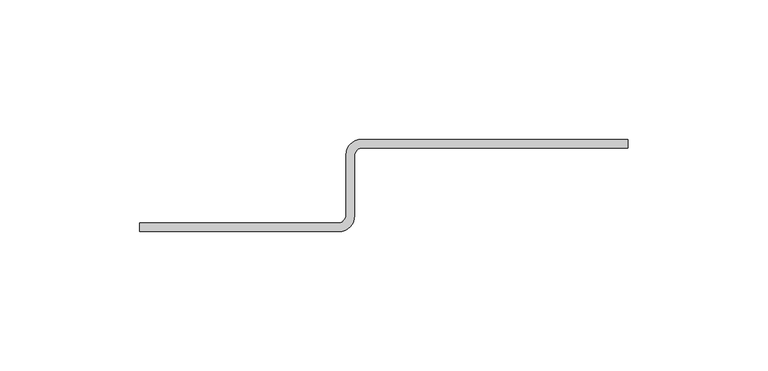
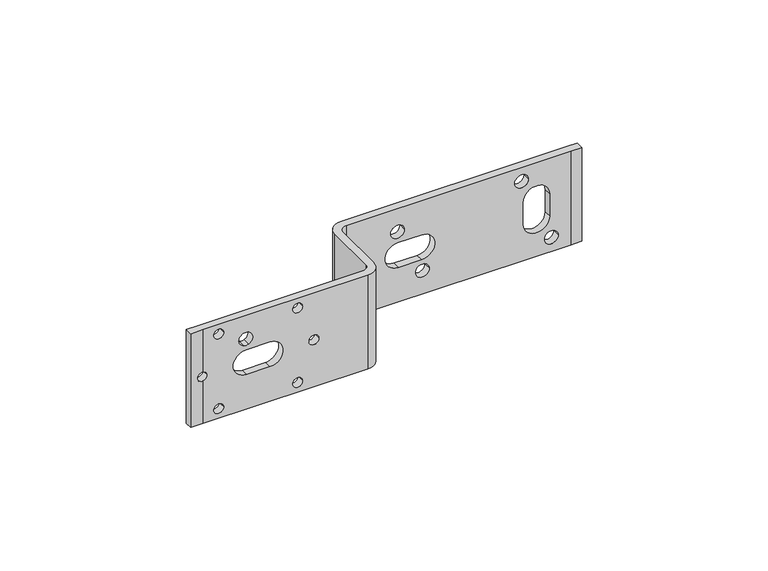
"""IFC4 building model written with IfcOpenShell, lengths in millimetres: proxy geometry, REHAU_RAUTITAN_Bracket Z : REHAU Bracket Z 30, for single connection."""

from ifc_helpers import new_model, si_unit, frame, origin, place, context, project, spatial, polyline, circle_curve, source, transform, mapped, element, save
from ifc_brep_helpers import plane_surface, cylinder_surface, revolved_surface, advanced_brep


def mechanical_equipment_fc905d6f(model_context):
    return source(origin(), model_context, "Body", "AdvancedBrep", [
        advanced_brep(
        [(0.0, 12.5, 20.0), (0.0, -9.0, 20.0), (-3.0, -12.0, 20.0), (-69.0, -12.0, 20.0), (-74.0, -12.0, 20.0), (-74.0, -15.0, 20.0), (-69.0, -15.0, 20.0), (-2.5, -15.0, 20.0), (3.0, -9.5, 20.0), (3.0, 12.0, 20.0), (6.0, 15.0, 20.0), (96.5, 15.0, 20.0), (101.0, 15.0, 20.0), (101.0, 18.0, 20.0), (96.5, 18.0, 20.0), (5.5, 18.0, 20.0), (0.0, 12.5, -20.0), (5.5, 18.0, -20.0), (96.5, 18.0, -20.0), (101.0, 18.0, -20.0), (101.0, 15.0, -20.0), (96.5, 15.0, -20.0), (6.0, 15.0, -20.0), (3.0, 12.0, -20.0), (3.0, -9.5, -20.0), (-2.5, -15.0, -20.0), (-69.0, -15.0, -20.0), (-74.0, -15.0, -20.0), (-74.0, -12.0, -20.0), (-69.0, -12.0, -20.0), (-3.0, -12.0, -20.0), (0.0, -9.0, -20.0), (-69.0, -12.0, -1.9843135), (-67.25, -12.0, 0.0), (-69.0, -12.0, 1.9843135), (-32.8400974, -12.0, 15.9099026), (-28.8400974, -12.0, 15.9099026), (-50.6092942, -12.0, 7.497743), (-54.5, -12.0, 10.0), (-52.6228998, -12.0, 7.3922144), (-64.6599026, -12.0, 15.9099026), (-60.6599026, -12.0, 15.9099026), (-32.8400974, -12.0, -15.9099026), (-28.8400974, -12.0, -15.9099026), (-64.6599026, -12.0, -15.9099026), (-60.6599026, -12.0, -15.9099026), (-26.25, -12.0, 0.0), (-22.25, -12.0, 0.0), (-42.0, -12.0, -5.25), (-42.0, -12.0, 5.25), (-51.5, -12.0, 5.25), (-51.5, -12.0, -5.25), (-71.25, -12.0, 0.0), (-69.0, -15.0, -1.9843135), (-71.25, -15.0, 0.0), (-69.0, -15.0, 1.9843135), (-67.25, -15.0, 0.0), (-28.8400974, -15.0, 15.9099026), (-32.8400974, -15.0, 15.9099026), (-54.5, -15.0, 10.0), (-50.6092942, -15.0, 7.497743), (-52.6228998, -15.0, 7.3922144), (-60.6599026, -15.0, 15.9099026), (-64.6599026, -15.0, 15.9099026), (-28.8400974, -15.0, -15.9099026), (-32.8400974, -15.0, -15.9099026), (-60.6599026, -15.0, -15.9099026), (-64.6599026, -15.0, -15.9099026), (-22.25, -15.0, 0.0), (-26.25, -15.0, 0.0), (-42.0, -15.0, 5.25), (-42.0, -15.0, -5.25), (-51.5, -15.0, -5.25), (-51.5, -15.0, 5.25), (29.5, 15.0, 10.0), (24.0, 15.0, 10.0), (79.5, 15.0, 14.0), (74.0, 15.0, 14.0), (77.5, 15.0, 4.75), (88.0, 15.0, 4.75), (88.0, 15.0, -4.75), (77.5, 15.0, -4.75), (36.5, 15.0, 5.25), (36.5, 15.0, -5.25), (27.0, 15.0, -5.25), (27.0, 15.0, 5.25), (39.5, 15.0, -10.0), (34.0, 15.0, -10.0), (91.5, 15.0, -14.0), (86.0, 15.0, -14.0), (24.0, 18.0, 10.0), (29.5, 18.0, 10.0), (74.0, 18.0, 14.0), (79.5, 18.0, 14.0), (88.0, 18.0, 4.75), (77.5, 18.0, 4.75), (77.5, 18.0, -4.75), (88.0, 18.0, -4.75), (36.5, 18.0, -5.25), (36.5, 18.0, 5.25), (27.0, 18.0, 5.25), (27.0, 18.0, -5.25), (34.0, 18.0, -10.0), (39.5, 18.0, -10.0), (86.0, 18.0, -14.0), (91.5, 18.0, -14.0)],
        [
            (0, 1),
            (1, 2, circle_curve(frame((-3.0, -9.0, 20.0), z_axis=(0.0, 0.0, -1.0), x_axis=(1.0, 0.0, 0.0)), 3.0)),
            (2, 3),
            (3, 4),
            (4, 5),
            (5, 6),
            (6, 7),
            (7, 8, circle_curve(frame((-2.5, -9.5, 20.0), z_axis=(0.0, 0.0, 1.0), x_axis=(1.0, 0.0, 0.0)), 5.5)),
            (8, 9),
            (9, 10, circle_curve(frame((6.0, 12.0, 20.0), z_axis=(0.0, 0.0, -1.0), x_axis=(1.0, 0.0, 0.0)), 3.0)),
            (10, 11),
            (11, 12),
            (12, 13),
            (13, 14),
            (14, 15),
            (15, 0, circle_curve(frame((5.5, 12.5, 20.0), z_axis=(0.0, 0.0, 1.0), x_axis=(1.0, 0.0, 0.0)), 5.5)),
            (16, 17, circle_curve(frame((5.5, 12.5, -20.0), z_axis=(0.0, 0.0, -1.0), x_axis=(1.0, 0.0, 0.0)), 5.5)),
            (17, 18),
            (18, 19),
            (19, 20),
            (20, 21),
            (21, 22),
            (22, 23, circle_curve(frame((6.0, 12.0, -20.0), z_axis=(0.0, 0.0, 1.0), x_axis=(1.0, 0.0, 0.0)), 3.0)),
            (23, 24),
            (24, 25, circle_curve(frame((-2.5, -9.5, -20.0), z_axis=(0.0, 0.0, -1.0), x_axis=(1.0, 0.0, 0.0)), 5.5)),
            (25, 26),
            (26, 27),
            (27, 28),
            (28, 29),
            (29, 30),
            (30, 31, circle_curve(frame((-3.0, -9.0, -20.0), z_axis=(0.0, 0.0, 1.0), x_axis=(1.0, 0.0, 0.0)), 3.0)),
            (31, 16),
            (0, 16),
            (31, 1),
            (30, 2),
            (29, 32),
            (32, 33, circle_curve(frame((-69.25, -12.0, 0.0), z_axis=(0.0, -1.0, 0.0), x_axis=(1.0, 0.0, 0.0)), 2.0)),
            (33, 34, circle_curve(frame((-69.25, -12.0, 0.0), z_axis=(0.0, -1.0, 0.0), x_axis=(1.0, 0.0, 0.0)), 2.0)),
            (34, 3),
            (35, 36, circle_curve(frame((-30.8400974, -12.0, 15.9099026), z_axis=(0.0, -1.0, 0.0), x_axis=(1.0, 0.0, 0.0)), 2.0)),
            (36, 35, circle_curve(frame((-30.8400974, -12.0, 15.9099026), z_axis=(0.0, -1.0, 0.0), x_axis=(1.0, 0.0, 0.0)), 2.0)),
            (37, 38, circle_curve(frame((-51.75, -12.0, 10.0), z_axis=(0.0, -1.0, 0.0), x_axis=(1.0, 0.0, 0.0)), 2.75)),
            (38, 39, circle_curve(frame((-51.75, -12.0, 10.0), z_axis=(0.0, -1.0, 0.0), x_axis=(1.0, 0.0, 0.0)), 2.75)),
            (39, 37, circle_curve(frame((-51.75, -12.0, 10.0), z_axis=(0.0, -1.0, 0.0), x_axis=(1.0, 0.0, 0.0)), 2.75)),
            (40, 41, circle_curve(frame((-62.6599026, -12.0, 15.9099026), z_axis=(0.0, -1.0, 0.0), x_axis=(1.0, 0.0, 0.0)), 2.0)),
            (41, 40, circle_curve(frame((-62.6599026, -12.0, 15.9099026), z_axis=(0.0, -1.0, 0.0), x_axis=(1.0, 0.0, 0.0)), 2.0)),
            (42, 43, circle_curve(frame((-30.8400974, -12.0, -15.9099026), z_axis=(0.0, -1.0, 0.0), x_axis=(1.0, 0.0, 0.0)), 2.0)),
            (43, 42, circle_curve(frame((-30.8400974, -12.0, -15.9099026), z_axis=(0.0, -1.0, 0.0), x_axis=(1.0, 0.0, 0.0)), 2.0)),
            (44, 45, circle_curve(frame((-62.6599026, -12.0, -15.9099026), z_axis=(0.0, -1.0, 0.0), x_axis=(1.0, 0.0, 0.0)), 2.0)),
            (45, 44, circle_curve(frame((-62.6599026, -12.0, -15.9099026), z_axis=(0.0, -1.0, 0.0), x_axis=(1.0, 0.0, 0.0)), 2.0)),
            (46, 47, circle_curve(frame((-24.25, -12.0, 0.0), z_axis=(0.0, -1.0, 0.0), x_axis=(1.0, 0.0, 0.0)), 2.0)),
            (47, 46, circle_curve(frame((-24.25, -12.0, 0.0), z_axis=(0.0, -1.0, 0.0), x_axis=(1.0, 0.0, 0.0)), 2.0)),
            (48, 49, circle_curve(frame((-42.0, -12.0, 0.0), z_axis=(0.0, -1.0, 0.0), x_axis=(1.0, 0.0, 0.0)), 5.25)),
            (49, 50),
            (50, 51, circle_curve(frame((-51.5, -12.0, 0.0), z_axis=(0.0, -1.0, 0.0), x_axis=(1.0, 0.0, 0.0)), 5.25)),
            (51, 48),
            (34, 52, circle_curve(frame((-69.25, -12.0, 0.0), z_axis=(0.0, -1.0, 0.0), x_axis=(1.0, 0.0, 0.0)), 2.0)),
            (52, 32, circle_curve(frame((-69.25, -12.0, 0.0), z_axis=(0.0, -1.0, 0.0), x_axis=(1.0, 0.0, 0.0)), 2.0)),
            (28, 4),
            (27, 5),
            (26, 53),
            (53, 54, circle_curve(frame((-69.25, -15.0, 0.0), z_axis=(0.0, 1.0, 0.0), x_axis=(1.0, 0.0, 0.0)), 2.0)),
            (54, 55, circle_curve(frame((-69.25, -15.0, 0.0), z_axis=(0.0, 1.0, 0.0), x_axis=(1.0, 0.0, 0.0)), 2.0)),
            (55, 6),
            (55, 56, circle_curve(frame((-69.25, -15.0, 0.0), z_axis=(0.0, 1.0, 0.0), x_axis=(1.0, 0.0, 0.0)), 2.0)),
            (56, 53, circle_curve(frame((-69.25, -15.0, 0.0), z_axis=(0.0, 1.0, 0.0), x_axis=(1.0, 0.0, 0.0)), 2.0)),
            (25, 7),
            (57, 58, circle_curve(frame((-30.8400974, -15.0, 15.9099026), z_axis=(0.0, 1.0, 0.0), x_axis=(1.0, 0.0, 0.0)), 2.0)),
            (58, 57, circle_curve(frame((-30.8400974, -15.0, 15.9099026), z_axis=(0.0, 1.0, 0.0), x_axis=(1.0, 0.0, 0.0)), 2.0)),
            (59, 60, circle_curve(frame((-51.75, -15.0, 10.0), z_axis=(0.0, 1.0, 0.0), x_axis=(1.0, 0.0, 0.0)), 2.75)),
            (60, 61, circle_curve(frame((-51.75, -15.0, 10.0), z_axis=(0.0, 1.0, 0.0), x_axis=(1.0, 0.0, 0.0)), 2.75)),
            (61, 59, circle_curve(frame((-51.75, -15.0, 10.0), z_axis=(0.0, 1.0, 0.0), x_axis=(1.0, 0.0, 0.0)), 2.75)),
            (62, 63, circle_curve(frame((-62.6599026, -15.0, 15.9099026), z_axis=(0.0, 1.0, 0.0), x_axis=(1.0, 0.0, 0.0)), 2.0)),
            (63, 62, circle_curve(frame((-62.6599026, -15.0, 15.9099026), z_axis=(0.0, 1.0, 0.0), x_axis=(1.0, 0.0, 0.0)), 2.0)),
            (64, 65, circle_curve(frame((-30.8400974, -15.0, -15.9099026), z_axis=(0.0, 1.0, 0.0), x_axis=(1.0, 0.0, 0.0)), 2.0)),
            (65, 64, circle_curve(frame((-30.8400974, -15.0, -15.9099026), z_axis=(0.0, 1.0, 0.0), x_axis=(1.0, 0.0, 0.0)), 2.0)),
            (66, 67, circle_curve(frame((-62.6599026, -15.0, -15.9099026), z_axis=(0.0, 1.0, 0.0), x_axis=(1.0, 0.0, 0.0)), 2.0)),
            (67, 66, circle_curve(frame((-62.6599026, -15.0, -15.9099026), z_axis=(0.0, 1.0, 0.0), x_axis=(1.0, 0.0, 0.0)), 2.0)),
            (68, 69, circle_curve(frame((-24.25, -15.0, 0.0), z_axis=(0.0, 1.0, 0.0), x_axis=(1.0, 0.0, 0.0)), 2.0)),
            (69, 68, circle_curve(frame((-24.25, -15.0, 0.0), z_axis=(0.0, 1.0, 0.0), x_axis=(1.0, 0.0, 0.0)), 2.0)),
            (70, 71, circle_curve(frame((-42.0, -15.0, 0.0), z_axis=(0.0, 1.0, 0.0), x_axis=(1.0, 0.0, 0.0)), 5.25)),
            (71, 72),
            (72, 73, circle_curve(frame((-51.5, -15.0, 0.0), z_axis=(0.0, 1.0, 0.0), x_axis=(1.0, 0.0, 0.0)), 5.25)),
            (73, 70),
            (24, 8),
            (23, 9),
            (22, 10),
            (21, 11),
            (74, 75, circle_curve(frame((26.75, 15.0, 10.0), z_axis=(0.0, 1.0, 0.0), x_axis=(1.0, 0.0, 0.0)), 2.75)),
            (75, 74, circle_curve(frame((26.75, 15.0, 10.0), z_axis=(0.0, 1.0, 0.0), x_axis=(1.0, 0.0, 0.0)), 2.75)),
            (76, 77, circle_curve(frame((76.75, 15.0, 14.0), z_axis=(0.0, 1.0, 0.0), x_axis=(1.0, 0.0, 0.0)), 2.75)),
            (77, 76, circle_curve(frame((76.75, 15.0, 14.0), z_axis=(0.0, 1.0, 0.0), x_axis=(1.0, 0.0, 0.0)), 2.75)),
            (78, 79, circle_curve(frame((82.75, 15.0, 4.75), z_axis=(0.0, 1.0, 0.0), x_axis=(1.0, 0.0, 0.0)), 5.25)),
            (79, 80),
            (80, 81, circle_curve(frame((82.75, 15.0, -4.75), z_axis=(0.0, 1.0, 0.0), x_axis=(1.0, 0.0, 0.0)), 5.25)),
            (81, 78),
            (82, 83, circle_curve(frame((36.5, 15.0, 0.0), z_axis=(0.0, 1.0, 0.0), x_axis=(1.0, 0.0, 0.0)), 5.25)),
            (83, 84),
            (84, 85, circle_curve(frame((27.0, 15.0, 0.0), z_axis=(0.0, 1.0, 0.0), x_axis=(1.0, 0.0, 0.0)), 5.25)),
            (85, 82),
            (86, 87, circle_curve(frame((36.75, 15.0, -10.0), z_axis=(0.0, 1.0, 0.0), x_axis=(1.0, 0.0, 0.0)), 2.75)),
            (87, 86, circle_curve(frame((36.75, 15.0, -10.0), z_axis=(0.0, 1.0, 0.0), x_axis=(1.0, 0.0, 0.0)), 2.75)),
            (88, 89, circle_curve(frame((88.75, 15.0, -14.0), z_axis=(0.0, 1.0, 0.0), x_axis=(1.0, 0.0, 0.0)), 2.75)),
            (89, 88, circle_curve(frame((88.75, 15.0, -14.0), z_axis=(0.0, 1.0, 0.0), x_axis=(1.0, 0.0, 0.0)), 2.75)),
            (20, 12),
            (19, 13),
            (18, 14),
            (17, 15),
            (90, 91, circle_curve(frame((26.75, 18.0, 10.0), z_axis=(0.0, -1.0, 0.0), x_axis=(1.0, 0.0, 0.0)), 2.75)),
            (91, 90, circle_curve(frame((26.75, 18.0, 10.0), z_axis=(0.0, -1.0, 0.0), x_axis=(1.0, 0.0, 0.0)), 2.75)),
            (92, 93, circle_curve(frame((76.75, 18.0, 14.0), z_axis=(0.0, -1.0, 0.0), x_axis=(1.0, 0.0, 0.0)), 2.75)),
            (93, 92, circle_curve(frame((76.75, 18.0, 14.0), z_axis=(0.0, -1.0, 0.0), x_axis=(1.0, 0.0, 0.0)), 2.75)),
            (94, 95, circle_curve(frame((82.75, 18.0, 4.75), z_axis=(0.0, -1.0, 0.0), x_axis=(1.0, 0.0, 0.0)), 5.25)),
            (95, 96),
            (96, 97, circle_curve(frame((82.75, 18.0, -4.75), z_axis=(0.0, -1.0, 0.0), x_axis=(1.0, 0.0, 0.0)), 5.25)),
            (97, 94),
            (98, 99, circle_curve(frame((36.5, 18.0, 0.0), z_axis=(0.0, -1.0, 0.0), x_axis=(1.0, 0.0, 0.0)), 5.25)),
            (99, 100),
            (100, 101, circle_curve(frame((27.0, 18.0, 0.0), z_axis=(0.0, -1.0, 0.0), x_axis=(1.0, 0.0, 0.0)), 5.25)),
            (101, 98),
            (102, 103, circle_curve(frame((36.75, 18.0, -10.0), z_axis=(0.0, -1.0, 0.0), x_axis=(1.0, 0.0, 0.0)), 2.75)),
            (103, 102, circle_curve(frame((36.75, 18.0, -10.0), z_axis=(0.0, -1.0, 0.0), x_axis=(1.0, 0.0, 0.0)), 2.75)),
            (104, 105, circle_curve(frame((88.75, 18.0, -14.0), z_axis=(0.0, -1.0, 0.0), x_axis=(1.0, 0.0, 0.0)), 2.75)),
            (105, 104, circle_curve(frame((88.75, 18.0, -14.0), z_axis=(0.0, -1.0, 0.0), x_axis=(1.0, 0.0, 0.0)), 2.75)),
            (35, 58),
            (57, 36),
            (37, 60),
            (59, 38),
            (61, 39),
            (40, 63),
            (62, 41),
            (90, 75),
            (74, 91),
            (92, 77),
            (76, 93),
            (94, 79),
            (78, 95),
            (81, 96),
            (80, 97),
            (98, 83),
            (82, 99),
            (85, 100),
            (84, 101),
            (102, 87),
            (86, 103),
            (104, 89),
            (88, 105),
            (42, 65),
            (64, 43),
            (44, 67),
            (66, 45),
            (46, 69),
            (68, 47),
            (52, 54),
            (56, 33),
            (48, 71),
            (70, 49),
            (73, 50),
            (72, 51),
        ],
        [
            plane_surface(frame((0.0, 12.5, 20.0), z_axis=(0.0, 0.0, 1.0), x_axis=(0.0, -1.0, 0.0))),
            plane_surface(frame((0.0, 12.5, -20.0), z_axis=(0.0, 0.0, -1.0), x_axis=(0.0, 1.0, 0.0))),
            plane_surface(frame((0.0, 12.5, 20.0), z_axis=(-1.0, 0.0, 0.0), x_axis=(0.0, 0.0, -1.0))),
            revolved_surface(polyline([(0.0, -9.0, -20.0), (0.0, -9.0, 20.0)]), (-3.0, -9.0, -20.0), (0.0, 0.0, -1.0)),
            plane_surface(frame((-3.0, -12.0, 20.0), z_axis=(0.0, 1.0, 0.0), x_axis=(0.0, 0.0, -1.0))),
            plane_surface(frame((-69.0, -12.0, 20.0), z_axis=(0.0, 1.0, 0.0), x_axis=(0.0, 0.0, -1.0))),
            plane_surface(frame((-74.0, -12.0, 20.0), z_axis=(-1.0, 0.0, 0.0), x_axis=(0.0, 0.0, -1.0))),
            plane_surface(frame((-74.0, -15.0, 20.0), z_axis=(0.0, -1.0, 0.0), x_axis=(0.0, 0.0, -1.0))),
            plane_surface(frame((-69.0, -15.0, 20.0), z_axis=(0.0, -1.0, 0.0), x_axis=(0.0, 0.0, -1.0))),
            cylinder_surface(frame((-2.5, -9.5, -20.0), z_axis=(0.0, 0.0, 1.0), x_axis=(1.0, 0.0, 0.0)), 5.5),
            plane_surface(frame((3.0, -9.5, 20.0), z_axis=(1.0, 0.0, 0.0), x_axis=(0.0, 0.0, -1.0))),
            revolved_surface(polyline([(9.0, 12.0, -20.0), (9.0, 12.0, 20.0)]), (6.0, 12.0, -20.0), (0.0, 0.0, -1.0)),
            plane_surface(frame((6.0, 15.0, 20.0), z_axis=(0.0, -1.0, 0.0), x_axis=(0.0, 0.0, -1.0))),
            plane_surface(frame((96.5, 15.0, 20.0), z_axis=(0.0, -1.0, 0.0), x_axis=(0.0, 0.0, -1.0))),
            plane_surface(frame((101.0, 15.0, 20.0), z_axis=(1.0, 0.0, 0.0), x_axis=(0.0, 0.0, -1.0))),
            plane_surface(frame((101.0, 18.0, 20.0), z_axis=(0.0, 1.0, 0.0), x_axis=(0.0, 0.0, -1.0))),
            plane_surface(frame((96.5, 18.0, 20.0), z_axis=(0.0, 1.0, 0.0), x_axis=(0.0, 0.0, -1.0))),
            cylinder_surface(frame((5.5, 12.5, -20.0), z_axis=(0.0, 0.0, 1.0), x_axis=(1.0, 0.0, 0.0)), 5.5),
            revolved_surface(polyline([(-28.8400974, -15.0, 15.9099026), (-28.8400974, -12.0, 15.9099026)]), (-30.8400974, 30.0, 15.9099026), (0.0, -1.0, 0.0)),
            revolved_surface(polyline([(-49.0, -15.0, 10.0), (-49.0, -12.0, 10.0)]), (-51.75, 0.0, 10.0), (0.0, -1.0, 0.0)),
            revolved_surface(polyline([(-60.6599026, -15.0, 15.9099026), (-60.6599026, -12.0, 15.9099026)]), (-62.6599026, 0.0, 15.9099026), (0.0, -1.0, 0.0)),
            revolved_surface(polyline([(29.5, 15.0, 10.0), (29.5, 18.0, 10.0)]), (26.75, 0.0, 10.0), (0.0, -1.0, 0.0)),
            revolved_surface(polyline([(79.5, 15.0, 14.0), (79.5, 18.0, 14.0)]), (76.75, 0.0, 14.0), (0.0, -1.0, 0.0)),
            revolved_surface(polyline([(88.0, 15.0, 4.75), (88.0, 18.0, 4.75)]), (82.75, 0.0, 4.75), (0.0, -1.0, 0.0)),
            plane_surface(frame((77.5, -30.0, 4.75), z_axis=(1.0, 0.0, 0.0), x_axis=(0.0, 1.0, 0.0))),
            revolved_surface(polyline([(88.0, 15.0, -4.75), (88.0, 18.0, -4.75)]), (82.75, 0.0, -4.75), (0.0, -1.0, 0.0)),
            plane_surface(frame((88.0, -30.0, -4.75), z_axis=(-1.0, 0.0, 0.0), x_axis=(0.0, 1.0, 0.0))),
            revolved_surface(polyline([(41.75, 15.0, 0.0), (41.75, 18.0, 0.0)]), (36.5, 0.0, 0.0), (0.0, -1.0, 0.0)),
            plane_surface(frame((36.5, -30.0, 5.25), z_axis=(0.0, 0.0, -1.0), x_axis=(0.0, 1.0, 0.0))),
            revolved_surface(polyline([(32.25, 15.0, 0.0), (32.25, 18.0, 0.0)]), (27.0, 0.0, 0.0), (0.0, -1.0, 0.0)),
            plane_surface(frame((27.0, -30.0, -5.25), z_axis=(0.0, 0.0, 1.0), x_axis=(0.0, 1.0, 0.0))),
            revolved_surface(polyline([(39.5, 15.0, -10.0), (39.5, 18.0, -10.0)]), (36.75, 0.0, -10.0), (0.0, -1.0, 0.0)),
            revolved_surface(polyline([(91.5, 15.0, -14.0), (91.5, 18.0, -14.0)]), (88.75, 0.0, -14.0), (0.0, -1.0, 0.0)),
            revolved_surface(polyline([(-28.8400974, -15.0, -15.9099026), (-28.8400974, -12.0, -15.9099026)]), (-30.8400974, 0.0, -15.9099026), (0.0, -1.0, 0.0)),
            revolved_surface(polyline([(-60.6599026, -15.0, -15.9099026), (-60.6599026, -12.0, -15.9099026)]), (-62.6599026, 0.0, -15.9099026), (0.0, -1.0, 0.0)),
            revolved_surface(polyline([(-22.25, -15.0, 0.0), (-22.25, -12.0, 0.0)]), (-24.25, 0.0, 0.0), (0.0, -1.0, 0.0)),
            revolved_surface(polyline([(-67.25, -15.0, 0.0), (-67.25, -12.0, 0.0)]), (-69.25, 0.0, 0.0), (0.0, -1.0, 0.0)),
            revolved_surface(polyline([(-36.75, -15.0, 0.0), (-36.75, -12.0, 0.0)]), (-42.0, 0.0, 0.0), (0.0, -1.0, 0.0)),
            plane_surface(frame((-42.0, -30.0, 5.25), z_axis=(0.0, 0.0, -1.0), x_axis=(0.0, 1.0, 0.0))),
            revolved_surface(polyline([(-46.25, -15.0, 0.0), (-46.25, -12.0, 0.0)]), (-51.5, 0.0, 0.0), (0.0, -1.0, 0.0)),
            plane_surface(frame((-51.5, -30.0, -5.25), z_axis=(0.0, 0.0, 1.0), x_axis=(0.0, 1.0, 0.0))),
        ],
        [
            (0, [[1, 2, 3, 4, 5, 6, 7, 8, 9, 10, 11, 12, 13, 14, 15, 16]]),
            (1, [[17, 18, 19, 20, 21, 22, 23, 24, 25, 26, 27, 28, 29, 30, 31, 32]]),
            (2, [[-1, 33, -32, 34]]),
            (3, [[-2, -34, -31, 35]]),
            (4, [[-3, -35, -30, 36, 37, 38, 39], [40, 41], [42, 43, 44], [45, 46], [47, 48], [49, 50], [51, 52], [53, 54, 55, 56]]),
            (5, [[-4, -39, 57, 58, -36, -29, 59]]),
            (6, [[-5, -59, -28, 60]]),
            (7, [[-6, -60, -27, 61, 62, 63, 64]]),
            (8, [[-7, -64, 65, 66, -61, -26, 67], [68, 69], [70, 71, 72], [73, 74], [75, 76], [77, 78], [79, 80], [81, 82, 83, 84]]),
            (9, [[-8, -67, -25, 85]]),
            (10, [[-9, -85, -24, 86]]),
            (11, [[-10, -86, -23, 87]]),
            (12, [[-11, -87, -22, 88], [89, 90], [91, 92], [93, 94, 95, 96], [97, 98, 99, 100], [101, 102], [103, 104]]),
            (13, [[-12, -88, -21, 105]]),
            (14, [[-13, -105, -20, 106]]),
            (15, [[-14, -106, -19, 107]]),
            (16, [[-15, -107, -18, 108], [109, 110], [111, 112], [113, 114, 115, 116], [117, 118, 119, 120], [121, 122], [123, 124]]),
            (17, [[-16, -108, -17, -33]]),
            (18, [[125, -68, 126, -40]]),
            (18, [[-125, -41, -126, -69]]),
            (19, [[127, -70, 128, -42]]),
            (19, [[-128, -72, 129, -43]]),
            (19, [[-127, -44, -129, -71]]),
            (20, [[130, -73, 131, -45]]),
            (20, [[-130, -46, -131, -74]]),
            (21, [[132, -89, 133, -109]]),
            (21, [[-132, -110, -133, -90]]),
            (22, [[134, -91, 135, -111]]),
            (22, [[-134, -112, -135, -92]]),
            (23, [[136, -93, 137, -113]]),
            (24, [[-137, -96, 138, -114]]),
            (25, [[-138, -95, 139, -115]]),
            (26, [[-136, -116, -139, -94]]),
            (27, [[140, -97, 141, -117]]),
            (28, [[-141, -100, 142, -118]]),
            (29, [[-142, -99, 143, -119]]),
            (30, [[-140, -120, -143, -98]]),
            (31, [[144, -101, 145, -121]]),
            (31, [[-144, -122, -145, -102]]),
            (32, [[146, -103, 147, -123]]),
            (32, [[-146, -124, -147, -104]]),
            (33, [[148, -75, 149, -47]]),
            (33, [[-148, -48, -149, -76]]),
            (34, [[150, -77, 151, -49]]),
            (34, [[-150, -50, -151, -78]]),
            (35, [[152, -79, 153, -51]]),
            (35, [[-152, -52, -153, -80]]),
            (36, [[154, -62, -66, 155, -37, -58]]),
            (36, [[-154, -57, -38, -155, -65, -63]]),
            (37, [[156, -81, 157, -53]]),
            (38, [[-157, -84, 158, -54]]),
            (39, [[-158, -83, 159, -55]]),
            (40, [[-156, -56, -159, -82]]),
        ],
    ),
    ])


if __name__ == "__main__":
    model = new_model("IFC4")
    model_context = context("Model", 3, world=origin())
    ifc_project = project(units=[si_unit("LENGTHUNIT", "METRE", prefix="MILLI")], contexts=[model_context])
    site = spatial("IfcSite", under=ifc_project)
    building = spatial("IfcBuilding", under=site)
    placement = place(None, origin())
    mechanical_equipment_shape = mechanical_equipment_fc905d6f(model_context)
    element("IfcBuildingElementProxy", 1, Name="REHAU_RAUTITAN_Bracket Z : REHAU Bracket Z 30, for single connection", ObjectType="REHAU_RAUTITAN_Bracket Z : REHAU Bracket Z 30, for single connection", at=placement, inside=building, context=model_context, shape_type="MappedRepresentation", body=[
        mapped(mechanical_equipment_shape, transform((0.0, 0.0, 0.0), x_axis=(1.0, 0.0, 0.0), y_axis=(0.0, 1.0, 0.0), z_axis=(0.0, 0.0, 1.0))),
    ])
    save(model, "model.ifc")
